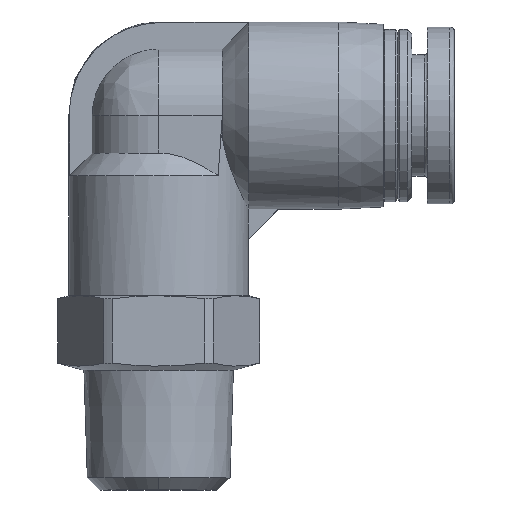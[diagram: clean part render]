
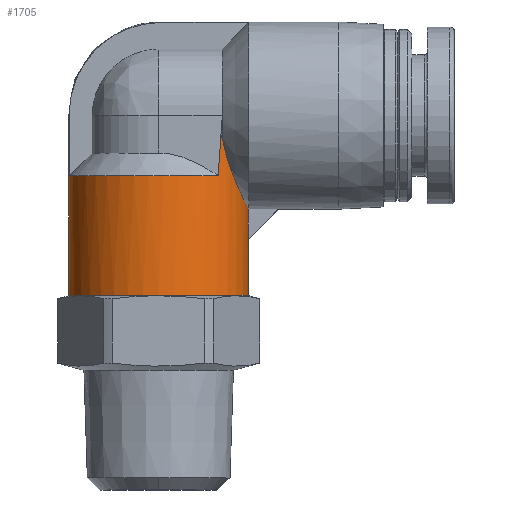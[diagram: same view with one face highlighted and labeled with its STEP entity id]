
A CAD part, front view. The second image highlights one B-rep face of the part: STEP entity #1705.
In plain terms, the highlighted cylindrical face has radius 6 mm (diameter 12 mm), a partial arc.
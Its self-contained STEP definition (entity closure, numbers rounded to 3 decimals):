
#14 = VECTOR ( 'NONE', #2214, 1000. ) ;
#113 = EDGE_CURVE ( 'NONE', #1822, #803, #1941, .T. ) ;
#156 = CARTESIAN_POINT ( 'NONE',  ( 5.956, -0.775, 18.836 ) ) ;
#160 = CYLINDRICAL_SURFACE ( 'NONE', #786, 6. ) ;
#205 = CARTESIAN_POINT ( 'NONE',  ( 5.915, -1.036, 18.916 ) ) ;
#210 = ORIENTED_EDGE ( 'NONE', *, *, #1565, .F. ) ;
#223 = ORIENTED_EDGE ( 'NONE', *, *, #2236, .T. ) ;
#276 = VECTOR ( 'NONE', #1550, 1000. ) ;
#299 = ORIENTED_EDGE ( 'NONE', *, *, #837, .F. ) ;
#310 = CARTESIAN_POINT ( 'NONE',  ( 6., 0., 16.75 ) ) ;
#331 = CIRCLE ( 'NONE', #2892, 6. ) ;
#334 = CARTESIAN_POINT ( 'NONE',  ( 0., 0., 13. ) ) ;
#342 = B_SPLINE_CURVE_WITH_KNOTS ( 'NONE', 3,
 ( #1725, #604, #461, #1800 ),
 .UNSPECIFIED., .F., .F.,
 ( 4, 4 ),
 ( 0., 1. ),
 .UNSPECIFIED. ) ;
#345 = B_SPLINE_CURVE_WITH_KNOTS ( 'NONE', 3,
 ( #858, #626, #1521, #1099 ),
 .UNSPECIFIED., .F., .F.,
 ( 4, 4 ),
 ( 0., 1. ),
 .UNSPECIFIED. ) ;
#404 = CARTESIAN_POINT ( 'NONE',  ( 5.588, -2.196, 19.585 ) ) ;
#461 = CARTESIAN_POINT ( 'NONE',  ( 4.035, -4.442, 21.941 ) ) ;
#470 = CARTESIAN_POINT ( 'NONE',  ( 4.25, -4.235, 23.479 ) ) ;
#471 = VERTEX_POINT ( 'NONE', #1951 ) ;
#557 = AXIS2_PLACEMENT_3D ( 'NONE', #691, #2735, #941 ) ;
#568 = B_SPLINE_CURVE_WITH_KNOTS ( 'NONE', 3,
 ( #2471, #1582, #694, #1108 ),
 .UNSPECIFIED., .F., .F.,
 ( 4, 4 ),
 ( 0., 1. ),
 .UNSPECIFIED. ) ;
#580 = CARTESIAN_POINT ( 'NONE',  ( 6., 0., 13. ) ) ;
#597 = DIRECTION ( 'NONE',  ( 1., 0., 0. ) ) ;
#604 = CARTESIAN_POINT ( 'NONE',  ( 4.099, -4.382, 22.857 ) ) ;
#626 = CARTESIAN_POINT ( 'NONE',  ( 4.218, -4.267, 23.568 ) ) ;
#636 = CARTESIAN_POINT ( 'NONE',  ( 4.479, -4., 22.428 ) ) ;
#691 = CARTESIAN_POINT ( 'NONE',  ( 0., 0., 21. ) ) ;
#694 = CARTESIAN_POINT ( 'NONE',  ( -5.984, -0.501, 25. ) ) ;
#710 = EDGE_CURVE ( 'NONE', #1312, #1349, #2206, .T. ) ;
#786 = AXIS2_PLACEMENT_3D ( 'NONE', #873, #2219, #2399 ) ;
#801 = LINE ( 'NONE', #1833, #1968 ) ;
#803 = VERTEX_POINT ( 'NONE', #310 ) ;
#837 = EDGE_CURVE ( 'NONE', #1295, #803, #1959, .T. ) ;
#855 = CARTESIAN_POINT ( 'NONE',  ( 5.736, -1.763, 19.278 ) ) ;
#858 = CARTESIAN_POINT ( 'NONE',  ( 4.25, -4.235, 23.479 ) ) ;
#873 = CARTESIAN_POINT ( 'NONE',  ( 0., 0., 13. ) ) ;
#922 = EDGE_CURVE ( 'NONE', #1629, #1312, #342, .T. ) ;
#941 = DIRECTION ( 'NONE',  ( 1., 0., 0. ) ) ;
#961 = ORIENTED_EDGE ( 'NONE', *, *, #1040, .F. ) ;
#1009 = EDGE_CURVE ( 'NONE', #471, #2543, #2879, .T. ) ;
#1031 = CARTESIAN_POINT ( 'NONE',  ( 6., 0., 13. ) ) ;
#1040 = EDGE_CURVE ( 'NONE', #2543, #1295, #1095, .T. ) ;
#1082 = CARTESIAN_POINT ( 'NONE',  ( 5.834, -1.409, 19.08 ) ) ;
#1095 = LINE ( 'NONE', #1299, #276 ) ;
#1099 = CARTESIAN_POINT ( 'NONE',  ( 4.162, -4.322, 23.747 ) ) ;
#1108 = CARTESIAN_POINT ( 'NONE',  ( -5.953, -0.75, 25. ) ) ;
#1177 = ORIENTED_EDGE ( 'NONE', *, *, #1009, .F. ) ;
#1179 = CARTESIAN_POINT ( 'NONE',  ( 5.979, -0.5, 18.791 ) ) ;
#1232 = CARTESIAN_POINT ( 'NONE',  ( 6., -0.167, 16.75 ) ) ;
#1237 = EDGE_CURVE ( 'NONE', #1369, #1349, #1618, .T. ) ;
#1260 = DIRECTION ( 'NONE',  ( 0., 0., 1. ) ) ;
#1288 = CARTESIAN_POINT ( 'NONE',  ( 4.162, -4.322, 23.747 ) ) ;
#1295 = VERTEX_POINT ( 'NONE', #1866 ) ;
#1299 = CARTESIAN_POINT ( 'NONE',  ( 5.979, -0.5, 18.803 ) ) ;
#1312 = VERTEX_POINT ( 'NONE', #1445 ) ;
#1315 = CARTESIAN_POINT ( 'NONE',  ( 5.979, -0.5, 18.791 ) ) ;
#1330 = ORIENTED_EDGE ( 'NONE', *, *, #113, .T. ) ;
#1340 = VECTOR ( 'NONE', #2174, 1000. ) ;
#1349 = VERTEX_POINT ( 'NONE', #2149 ) ;
#1366 = CARTESIAN_POINT ( 'NONE',  ( 4.344, -4.141, 22.94 ) ) ;
#1369 = VERTEX_POINT ( 'NONE', #2354 ) ;
#1440 = EDGE_CURVE ( 'NONE', #2192, #1369, #568, .T. ) ;
#1445 = CARTESIAN_POINT ( 'NONE',  ( 3.969, -4.5, 21. ) ) ;
#1448 = CARTESIAN_POINT ( 'NONE',  ( 5.979, -0.5, 16.729 ) ) ;
#1521 = CARTESIAN_POINT ( 'NONE',  ( 4.189, -4.296, 23.657 ) ) ;
#1535 = CARTESIAN_POINT ( 'NONE',  ( 4.794, -3.617, 21.449 ) ) ;
#1550 = DIRECTION ( 'NONE',  ( 0., 0., -1. ) ) ;
#1565 = EDGE_CURVE ( 'NONE', #1583, #2192, #801, .T. ) ;
#1582 = CARTESIAN_POINT ( 'NONE',  ( -6., -0.251, 25. ) ) ;
#1583 = VERTEX_POINT ( 'NONE', #1702 ) ;
#1618 = LINE ( 'NONE', #1838, #14 ) ;
#1629 = VERTEX_POINT ( 'NONE', #1288 ) ;
#1690 = EDGE_CURVE ( 'NONE', #471, #1629, #345, .T. ) ;
#1702 = CARTESIAN_POINT ( 'NONE',  ( -6., 0., 13. ) ) ;
#1705 = ADVANCED_FACE ( '44', ( #2637 ), #160, .T. ) ;
#1725 = CARTESIAN_POINT ( 'NONE',  ( 4.162, -4.322, 23.747 ) ) ;
#1774 = CARTESIAN_POINT ( 'NONE',  ( 5.803, -1.531, 19.143 ) ) ;
#1789 = ORIENTED_EDGE ( 'NONE', *, *, #710, .T. ) ;
#1800 = CARTESIAN_POINT ( 'NONE',  ( 3.969, -4.5, 21. ) ) ;
#1806 = ORIENTED_EDGE ( 'NONE', *, *, #1237, .F. ) ;
#1822 = VERTEX_POINT ( 'NONE', #1031 ) ;
#1833 = CARTESIAN_POINT ( 'NONE',  ( -6., 0., 13. ) ) ;
#1838 = CARTESIAN_POINT ( 'NONE',  ( -5.953, -0.75, 25. ) ) ;
#1866 = CARTESIAN_POINT ( 'NONE',  ( 5.979, -0.5, 16.729 ) ) ;
#1905 = CARTESIAN_POINT ( 'NONE',  ( -6., 0., 25. ) ) ;
#1915 = ORIENTED_EDGE ( 'NONE', *, *, #922, .T. ) ;
#1930 = EDGE_LOOP ( 'NONE', ( #210, #223, #1330, #299, #961, #1177, #2884, #1915, #1789, #1806, #2029 ) ) ;
#1941 = LINE ( 'NONE', #580, #1340 ) ;
#1949 = CARTESIAN_POINT ( 'NONE',  ( 5.332, -2.759, 20.141 ) ) ;
#1951 = CARTESIAN_POINT ( 'NONE',  ( 4.25, -4.235, 23.479 ) ) ;
#1959 =( BOUNDED_CURVE ( )  B_SPLINE_CURVE ( 3, ( #1448, #2547, #1232, #2791 ),
 .UNSPECIFIED., .F., .T. ) 
 B_SPLINE_CURVE_WITH_KNOTS ( ( 4, 4 ),
 ( 6.2, 6.283 ),
 .UNSPECIFIED. ) 
 CURVE ( )  GEOMETRIC_REPRESENTATION_ITEM ( )  RATIONAL_B_SPLINE_CURVE ( ( 1., 0.999, 0.999, 1. ) ) 
 REPRESENTATION_ITEM ( '' )  );
#1968 = VECTOR ( 'NONE', #1260, 1000. ) ;
#1996 = CARTESIAN_POINT ( 'NONE',  ( 4.975, -3.372, 20.979 ) ) ;
#2029 = ORIENTED_EDGE ( 'NONE', *, *, #1440, .F. ) ;
#2149 = CARTESIAN_POINT ( 'NONE',  ( -5.953, -0.75, 21. ) ) ;
#2174 = DIRECTION ( 'NONE',  ( 0., 0., 1. ) ) ;
#2192 = VERTEX_POINT ( 'NONE', #1905 ) ;
#2206 = CIRCLE ( 'NONE', #557, 6. ) ;
#2214 = DIRECTION ( 'NONE',  ( 0., 0., -1. ) ) ;
#2219 = DIRECTION ( 'NONE',  ( 0., 0., 1. ) ) ;
#2236 = EDGE_CURVE ( 'NONE', #1583, #1822, #331, .T. ) ;
#2354 = CARTESIAN_POINT ( 'NONE',  ( -5.953, -0.75, 25. ) ) ;
#2399 = DIRECTION ( 'NONE',  ( 1., 0., 0. ) ) ;
#2471 = CARTESIAN_POINT ( 'NONE',  ( -6., 0., 25. ) ) ;
#2542 = DIRECTION ( 'NONE',  ( 0., 0., 1. ) ) ;
#2543 = VERTEX_POINT ( 'NONE', #1179 ) ;
#2547 = CARTESIAN_POINT ( 'NONE',  ( 5.993, -0.334, 16.743 ) ) ;
#2637 = FACE_OUTER_BOUND ( 'NONE', #1930, .T. ) ;
#2664 = CARTESIAN_POINT ( 'NONE',  ( 5.505, -2.395, 19.762 ) ) ;
#2735 = DIRECTION ( 'NONE',  ( 0., 0., -1. ) ) ;
#2791 = CARTESIAN_POINT ( 'NONE',  ( 6., 0., 16.75 ) ) ;
#2844 = CARTESIAN_POINT ( 'NONE',  ( 5.243, -2.923, 20.343 ) ) ;
#2858 = CARTESIAN_POINT ( 'NONE',  ( 5.701, -1.874, 19.351 ) ) ;
#2879 = B_SPLINE_CURVE_WITH_KNOTS ( 'NONE', 3,
 ( #470, #1366, #636, #1535, #1996, #2844, #1949, #2664, #404, #2858, #855, #1774, #1082, #205, #156, #1315 ),
 .UNSPECIFIED., .F., .F.,
 ( 4, 2, 2, 2, 2, 2, 2, 4 ),
 ( 0., 0.002, 0.003, 0.004, 0.005, 0.005, 0.006, 0.007 ),
 .UNSPECIFIED. ) ;
#2884 = ORIENTED_EDGE ( 'NONE', *, *, #1690, .T. ) ;
#2892 = AXIS2_PLACEMENT_3D ( 'NONE', #334, #2542, #597 ) ;
